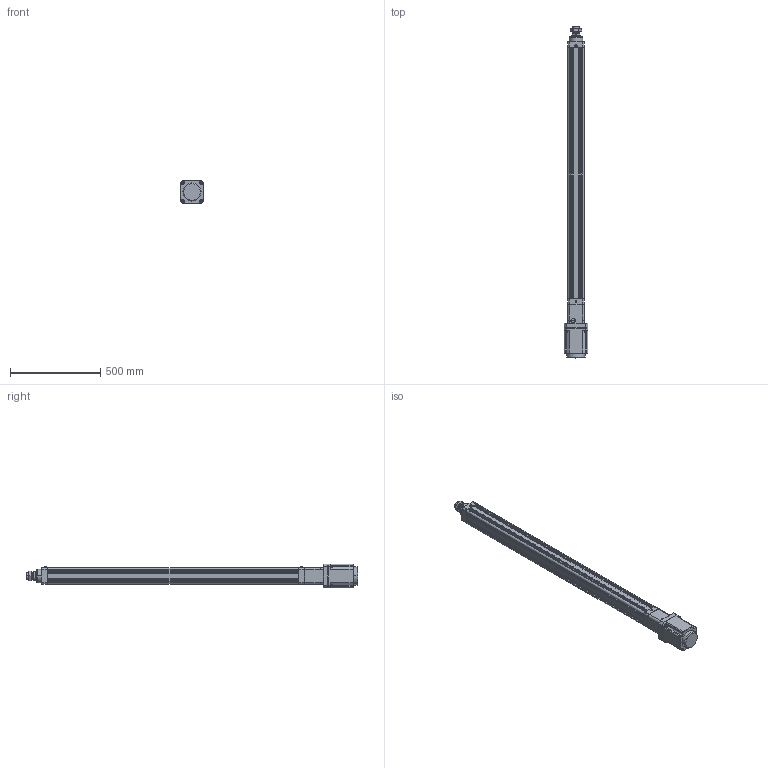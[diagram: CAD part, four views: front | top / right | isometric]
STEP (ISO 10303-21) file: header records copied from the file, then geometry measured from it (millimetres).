
FILE_DESCRIPTION((''),'2;1');
FILE_NAME('HE80-D-P_ASM','2020-04-01T',('ASUS20200'),(''),'CREO PARAMETRIC BY PTC INC, 2014190','CREO PARAMETRIC BY PTC INC, 2014190','');
FILE_SCHEMA(('CONFIG_CONTROL_DESIGN'));
Length unit declared in the file: millimetre
Products named in the file (22): HE80-D-P-001-X1; HE80-D-P-002-X1; HE80-D-P-003-X1; 30304J; YZ-M6X1; SLM-01; JDB506030; HE80-100-D-P-X1_ASM; HE80-D-009-X1; HE80-D-010-X1-130N; M10X110; SKT-20; M8X20; 130ST-M10010; JX6X6X40; TD-8; M8X40; HE80-D-P-005-X1; HE80-D-P-004-X1; HE80-D-P-008-X1; LGLM-M10-25; HE80-D-P_ASM
Assembly tree (38 placements, depth 3):
  HE80-D-P_ASM
    HE80-100-D-P-X1_ASM
      HE80-D-P-001-X1
      HE80-D-P-002-X1
      HE80-D-P-003-X1
      30304J  x2
      YZ-M6X1
      SLM-01
      JDB506030
    HE80-D-009-X1
    HE80-D-010-X1-130N
    M10X110  x4
    SKT-20  x2
    M8X20  x4
    130ST-M10010
    JX6X6X40
    TD-8  x4
    M8X40  x4
    HE80-D-P-005-X1
    HE80-D-P-004-X1
    HE80-D-P-008-X1
    LGLM-M10-25  x4
Bounding box: 130 x 1836 x 130.01 mm (x, y, z)
Volume: 7320897.7 mm3; surface area: 2039900.8 mm2
Topology: 37 solids, 61 shells, 1601 faces, 3713 edges, 2275 vertices
Faces by surface type: plane 561, cylinder 464, cone 448, torus 94, sphere 30, bspline 4
Entity records: 36252 total; most frequent: CARTESIAN_POINT 7118, DIRECTION 6470, ORIENTED_EDGE 5550, EDGE_CURVE 2821, AXIS2_PLACEMENT_3D 2526, VERTEX_POINT 1731, EDGE_LOOP 1428, VECTOR 1418
